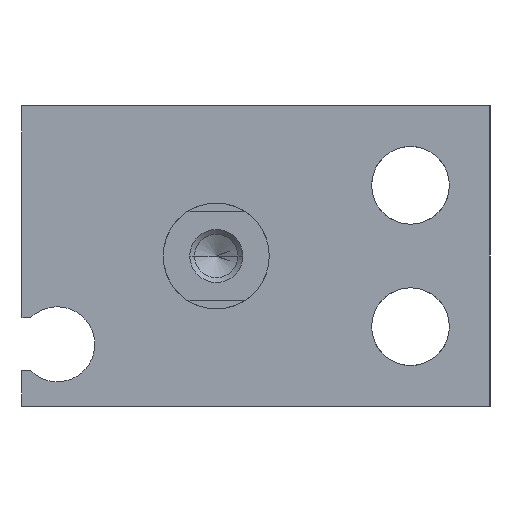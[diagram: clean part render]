
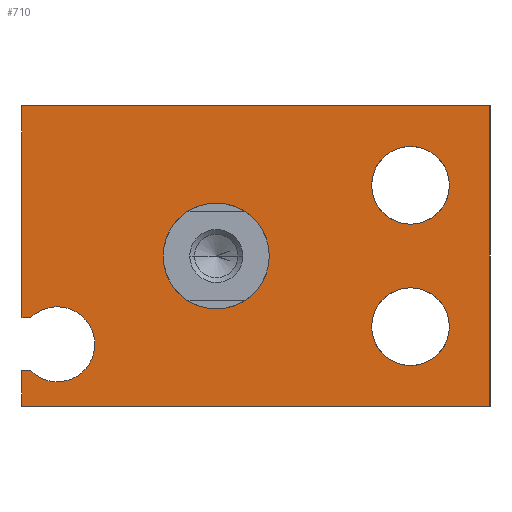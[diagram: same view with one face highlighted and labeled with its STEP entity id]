
A CAD part, left-side view. The second image highlights one B-rep face of the part: STEP entity #710.
In plain terms, the highlighted planar face has unit normal (-1, 0, 0).
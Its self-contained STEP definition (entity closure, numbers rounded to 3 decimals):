
#65 = EDGE_CURVE ( 'NONE', #2427, #2757, #627, .T. ) ;
#75 = CARTESIAN_POINT ( 'NONE',  ( 0., 0., 3. ) ) ;
#122 = CIRCLE ( 'NONE', #824, 2.2 ) ;
#126 = EDGE_CURVE ( 'NONE', #1966, #1685, #1600, .T. ) ;
#149 = CARTESIAN_POINT ( 'NONE',  ( 0., 11., -3.5 ) ) ;
#164 = EDGE_CURVE ( 'NONE', #1906, #2313, #923, .T. ) ;
#179 = VERTEX_POINT ( 'NONE', #1917 ) ;
#200 = CARTESIAN_POINT ( 'NONE',  ( 0., -11., -6.2 ) ) ;
#223 = AXIS2_PLACEMENT_3D ( 'NONE', #778, #648, #2481 ) ;
#225 = EDGE_LOOP ( 'NONE', ( #2897, #1635 ) ) ;
#254 = DIRECTION ( 'NONE',  ( 0., 0., 1. ) ) ;
#320 = LINE ( 'NONE', #366, #726 ) ;
#334 = FACE_BOUND ( 'NONE', #617, .T. ) ;
#366 = CARTESIAN_POINT ( 'NONE',  ( 0., -15.5, -8.5 ) ) ;
#422 = CARTESIAN_POINT ( 'NONE',  ( 0., 10.505, -6.5 ) ) ;
#472 = DIRECTION ( 'NONE',  ( -1., 0., 0. ) ) ;
#479 = ORIENTED_EDGE ( 'NONE', *, *, #65, .T. ) ;
#486 = EDGE_CURVE ( 'NONE', #1937, #179, #2873, .T. ) ;
#554 = CARTESIAN_POINT ( 'NONE',  ( 0., 9., -5. ) ) ;
#617 = EDGE_LOOP ( 'NONE', ( #744, #2883 ) ) ;
#627 = LINE ( 'NONE', #1322, #1022 ) ;
#644 = DIRECTION ( 'NONE',  ( 0., 0., -1. ) ) ;
#645 = EDGE_LOOP ( 'NONE', ( #2056, #1717, #479, #1892, #2190, #1175, #881, #1285, #1513, #863 ) ) ;
#648 = DIRECTION ( 'NONE',  ( -1., 0., 0. ) ) ;
#683 = AXIS2_PLACEMENT_3D ( 'NONE', #2633, #472, #254 ) ;
#692 = DIRECTION ( 'NONE',  ( 0., 0., -1. ) ) ;
#702 = EDGE_CURVE ( 'NONE', #2972, #2427, #320, .T. ) ;
#710 = ADVANCED_FACE ( 'NONE', ( #2772, #334, #2062, #2027 ), #867, .T. ) ;
#719 = CARTESIAN_POINT ( 'NONE',  ( 0., 11., -6.5 ) ) ;
#726 = VECTOR ( 'NONE', #3015, 1000. ) ;
#744 = ORIENTED_EDGE ( 'NONE', *, *, #918, .T. ) ;
#745 = CARTESIAN_POINT ( 'NONE',  ( 0., -15.5, 8.5 ) ) ;
#747 = DIRECTION ( 'NONE',  ( 0., 0., 1. ) ) ;
#760 = ORIENTED_EDGE ( 'NONE', *, *, #1140, .F. ) ;
#775 = VERTEX_POINT ( 'NONE', #2856 ) ;
#778 = CARTESIAN_POINT ( 'NONE',  ( 0., 9., -5. ) ) ;
#811 = DIRECTION ( 'NONE',  ( 0., 0., 1. ) ) ;
#824 = AXIS2_PLACEMENT_3D ( 'NONE', #1418, #1155, #2103 ) ;
#830 = CARTESIAN_POINT ( 'NONE',  ( 0., 0., -3. ) ) ;
#863 = ORIENTED_EDGE ( 'NONE', *, *, #1562, .T. ) ;
#867 = PLANE ( 'NONE',  #1783 ) ;
#877 = CARTESIAN_POINT ( 'NONE',  ( 0., 11., -6.5 ) ) ;
#881 = ORIENTED_EDGE ( 'NONE', *, *, #486, .F. ) ;
#918 = EDGE_CURVE ( 'NONE', #2234, #1313, #2855, .T. ) ;
#923 = LINE ( 'NONE', #1678, #2945 ) ;
#955 = DIRECTION ( 'NONE',  ( -1., 0., 0. ) ) ;
#960 = VERTEX_POINT ( 'NONE', #2448 ) ;
#975 = ORIENTED_EDGE ( 'NONE', *, *, #1509, .F. ) ;
#1022 = VECTOR ( 'NONE', #2247, 1000. ) ;
#1137 = EDGE_CURVE ( 'NONE', #1313, #2234, #1597, .T. ) ;
#1140 = EDGE_CURVE ( 'NONE', #2755, #960, #1394, .T. ) ;
#1155 = DIRECTION ( 'NONE',  ( -1., 0., 0. ) ) ;
#1161 = AXIS2_PLACEMENT_3D ( 'NONE', #554, #1769, #2733 ) ;
#1175 = ORIENTED_EDGE ( 'NONE', *, *, #1885, .F. ) ;
#1244 = CARTESIAN_POINT ( 'NONE',  ( 0., -11., 4. ) ) ;
#1271 = CARTESIAN_POINT ( 'NONE',  ( 0., -15.5, -8.5 ) ) ;
#1280 = DIRECTION ( 'NONE',  ( -1., 0., 0. ) ) ;
#1285 = ORIENTED_EDGE ( 'NONE', *, *, #2677, .F. ) ;
#1289 = DIRECTION ( 'NONE',  ( -1., 0., 0. ) ) ;
#1292 = AXIS2_PLACEMENT_3D ( 'NONE', #2976, #1280, #811 ) ;
#1308 = CARTESIAN_POINT ( 'NONE',  ( 0., -11., 1.8 ) ) ;
#1313 = VERTEX_POINT ( 'NONE', #75 ) ;
#1322 = CARTESIAN_POINT ( 'NONE',  ( 0., -15.5, 8.5 ) ) ;
#1347 = AXIS2_PLACEMENT_3D ( 'NONE', #1965, #1733, #2693 ) ;
#1368 = DIRECTION ( 'NONE',  ( 0., 1., 0. ) ) ;
#1381 = CARTESIAN_POINT ( 'NONE',  ( 0., 11., 8.5 ) ) ;
#1388 = DIRECTION ( 'NONE',  ( 0., -1., 0. ) ) ;
#1394 = CIRCLE ( 'NONE', #683, 2.2 ) ;
#1418 = CARTESIAN_POINT ( 'NONE',  ( 0., -11., -4. ) ) ;
#1502 = AXIS2_PLACEMENT_3D ( 'NONE', #1244, #955, #747 ) ;
#1509 = EDGE_CURVE ( 'NONE', #960, #2755, #122, .T. ) ;
#1513 = ORIENTED_EDGE ( 'NONE', *, *, #126, .T. ) ;
#1562 = EDGE_CURVE ( 'NONE', #1685, #2716, #3041, .T. ) ;
#1580 = CIRCLE ( 'NONE', #223, 2.125 ) ;
#1597 = CIRCLE ( 'NONE', #1993, 3. ) ;
#1600 = LINE ( 'NONE', #422, #2638 ) ;
#1635 = ORIENTED_EDGE ( 'NONE', *, *, #2173, .F. ) ;
#1678 = CARTESIAN_POINT ( 'NONE',  ( 0., 11., -3.5 ) ) ;
#1685 = VERTEX_POINT ( 'NONE', #719 ) ;
#1701 = CARTESIAN_POINT ( 'NONE',  ( 0., 0., 0. ) ) ;
#1717 = ORIENTED_EDGE ( 'NONE', *, *, #702, .T. ) ;
#1732 = EDGE_CURVE ( 'NONE', #775, #2141, #2862, .T. ) ;
#1733 = DIRECTION ( 'NONE',  ( 1., 0., 0. ) ) ;
#1752 = VECTOR ( 'NONE', #644, 1000. ) ;
#1762 = DIRECTION ( 'NONE',  ( 0., 0., -1. ) ) ;
#1763 = AXIS2_PLACEMENT_3D ( 'NONE', #2860, #1895, #2608 ) ;
#1769 = DIRECTION ( 'NONE',  ( -1., 0., 0. ) ) ;
#1783 = AXIS2_PLACEMENT_3D ( 'NONE', #2477, #1289, #2239 ) ;
#1868 = VECTOR ( 'NONE', #2238, 1000. ) ;
#1885 = EDGE_CURVE ( 'NONE', #179, #2313, #1580, .T. ) ;
#1892 = ORIENTED_EDGE ( 'NONE', *, *, #2030, .T. ) ;
#1895 = DIRECTION ( 'NONE',  ( -1., 0., 0. ) ) ;
#1906 = VERTEX_POINT ( 'NONE', #149 ) ;
#1917 = CARTESIAN_POINT ( 'NONE',  ( 0., 9., -2.875 ) ) ;
#1937 = VERTEX_POINT ( 'NONE', #2968 ) ;
#1965 = CARTESIAN_POINT ( 'NONE',  ( 0., 0., 0. ) ) ;
#1966 = VERTEX_POINT ( 'NONE', #2982 ) ;
#1993 = AXIS2_PLACEMENT_3D ( 'NONE', #1701, #2380, #692 ) ;
#2007 = LINE ( 'NONE', #3026, #2995 ) ;
#2027 = FACE_BOUND ( 'NONE', #225, .T. ) ;
#2030 = EDGE_CURVE ( 'NONE', #2757, #1906, #2007, .T. ) ;
#2056 = ORIENTED_EDGE ( 'NONE', *, *, #2911, .T. ) ;
#2062 = FACE_BOUND ( 'NONE', #2178, .T. ) ;
#2103 = DIRECTION ( 'NONE',  ( 0., 0., 1. ) ) ;
#2141 = VERTEX_POINT ( 'NONE', #1308 ) ;
#2173 = EDGE_CURVE ( 'NONE', #2141, #775, #2644, .T. ) ;
#2178 = EDGE_LOOP ( 'NONE', ( #975, #760 ) ) ;
#2190 = ORIENTED_EDGE ( 'NONE', *, *, #164, .T. ) ;
#2234 = VERTEX_POINT ( 'NONE', #830 ) ;
#2238 = DIRECTION ( 'NONE',  ( 0., -1., 0. ) ) ;
#2239 = DIRECTION ( 'NONE',  ( 0., 0., 1. ) ) ;
#2247 = DIRECTION ( 'NONE',  ( 0., 1., 0. ) ) ;
#2313 = VERTEX_POINT ( 'NONE', #2419 ) ;
#2380 = DIRECTION ( 'NONE',  ( 1., 0., 0. ) ) ;
#2419 = CARTESIAN_POINT ( 'NONE',  ( 0., 10.505, -3.5 ) ) ;
#2427 = VERTEX_POINT ( 'NONE', #745 ) ;
#2448 = CARTESIAN_POINT ( 'NONE',  ( 0., -11., -1.8 ) ) ;
#2477 = CARTESIAN_POINT ( 'NONE',  ( 0., 9., -5. ) ) ;
#2481 = DIRECTION ( 'NONE',  ( 0., 0., 1. ) ) ;
#2511 = CIRCLE ( 'NONE', #1161, 2.125 ) ;
#2608 = DIRECTION ( 'NONE',  ( 0., 0., 1. ) ) ;
#2633 = CARTESIAN_POINT ( 'NONE',  ( 0., -11., -4. ) ) ;
#2638 = VECTOR ( 'NONE', #1368, 1000. ) ;
#2644 = CIRCLE ( 'NONE', #1292, 2.2 ) ;
#2677 = EDGE_CURVE ( 'NONE', #1966, #1937, #2511, .T. ) ;
#2693 = DIRECTION ( 'NONE',  ( 0., 0., -1. ) ) ;
#2714 = CARTESIAN_POINT ( 'NONE',  ( 0., 11., -8.5 ) ) ;
#2716 = VERTEX_POINT ( 'NONE', #2774 ) ;
#2730 = LINE ( 'NONE', #2714, #1868 ) ;
#2733 = DIRECTION ( 'NONE',  ( 0., 0., 1. ) ) ;
#2755 = VERTEX_POINT ( 'NONE', #200 ) ;
#2757 = VERTEX_POINT ( 'NONE', #1381 ) ;
#2772 = FACE_OUTER_BOUND ( 'NONE', #645, .T. ) ;
#2774 = CARTESIAN_POINT ( 'NONE',  ( 0., 11., -8.5 ) ) ;
#2855 = CIRCLE ( 'NONE', #1347, 3. ) ;
#2856 = CARTESIAN_POINT ( 'NONE',  ( 0., -11., 6.2 ) ) ;
#2860 = CARTESIAN_POINT ( 'NONE',  ( 0., 9., -5. ) ) ;
#2862 = CIRCLE ( 'NONE', #1502, 2.2 ) ;
#2873 = CIRCLE ( 'NONE', #1763, 2.125 ) ;
#2883 = ORIENTED_EDGE ( 'NONE', *, *, #1137, .T. ) ;
#2897 = ORIENTED_EDGE ( 'NONE', *, *, #1732, .F. ) ;
#2911 = EDGE_CURVE ( 'NONE', #2716, #2972, #2730, .T. ) ;
#2945 = VECTOR ( 'NONE', #1388, 1000. ) ;
#2968 = CARTESIAN_POINT ( 'NONE',  ( 0., 9., -7.125 ) ) ;
#2972 = VERTEX_POINT ( 'NONE', #1271 ) ;
#2976 = CARTESIAN_POINT ( 'NONE',  ( 0., -11., 4. ) ) ;
#2982 = CARTESIAN_POINT ( 'NONE',  ( 0., 10.505, -6.5 ) ) ;
#2995 = VECTOR ( 'NONE', #1762, 1000. ) ;
#3015 = DIRECTION ( 'NONE',  ( 0., 0., 1. ) ) ;
#3026 = CARTESIAN_POINT ( 'NONE',  ( 0., 11., 8.5 ) ) ;
#3041 = LINE ( 'NONE', #877, #1752 ) ;
